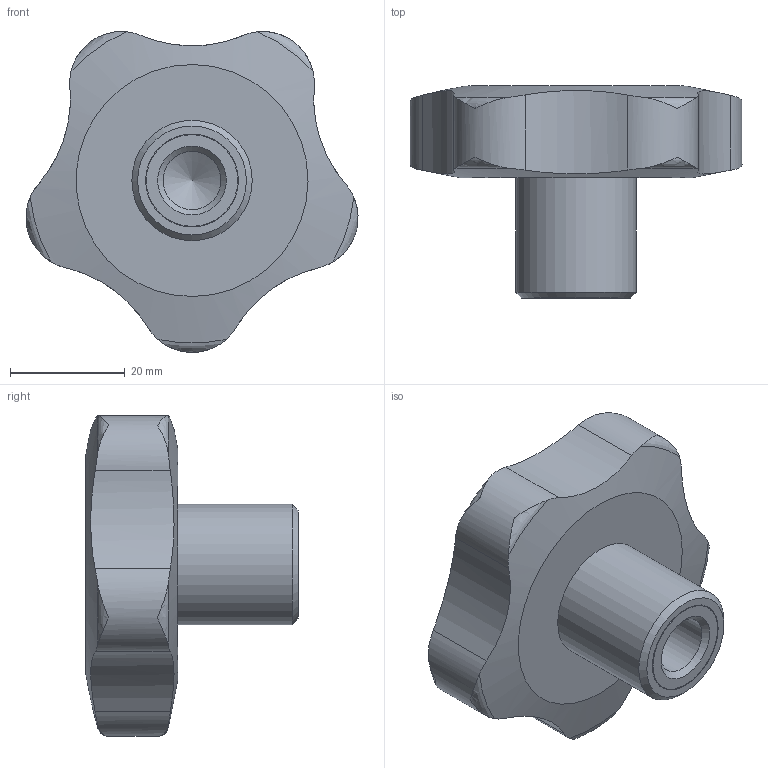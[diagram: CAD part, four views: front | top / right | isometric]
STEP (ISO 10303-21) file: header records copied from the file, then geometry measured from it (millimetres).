
FILE_DESCRIPTION( ( 'STEP AP203' ), '1' );
FILE_NAME( 'C:/Temp/Ganter_Step_05_03_2020/data/2_2/gn_5337_4/gn_5337_4_b/Star knob GN 5337.4-60-M12.stp', '2020-03-05T12:09:34', ( 'License CC BY-ND 4.0' ), ( 'CADENAS' ), ' ', 'PARTsolutions', ' ' );
FILE_SCHEMA( ( 'CONFIG_CONTROL_DESIGN' ) );
Length unit declared in the file: millimetre
Products named in the file (1): _Star knob GN 5337.4-60-M12
Bounding box: 57.94 x 37 x 55.99 mm (x, y, z)
Volume: 38491.4 mm3; surface area: 8980 mm2
Topology: 1 solids, 1 shells, 34 faces, 92 edges, 62 vertices
Faces by surface type: cylinder 14, torus 10, cone 4, plane 4, bspline 1, sphere 1
Full cylindrical faces by diameter (mm): 10.106 x1, 16 x1, 16.2 x1, 21 x1
Entity records: 1497 total; most frequent: CARTESIAN_POINT 731, ORIENTED_EDGE 154, DIRECTION 122, EDGE_CURVE 77, VERTEX_POINT 59, AXIS2_PLACEMENT_3D 56, EDGE_LOOP 46, B_SPLINE_CURVE_WITH_KNOTS 45
